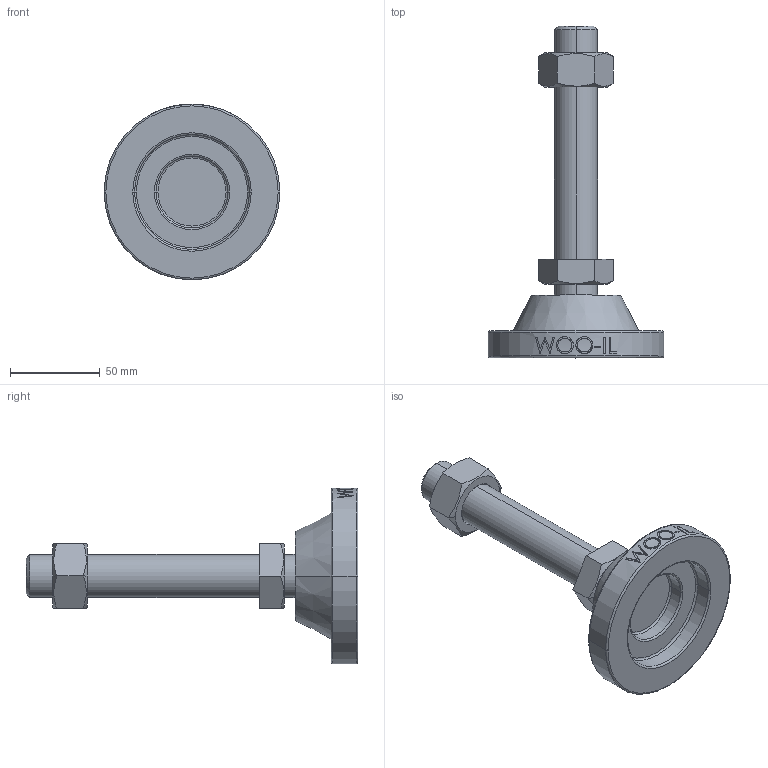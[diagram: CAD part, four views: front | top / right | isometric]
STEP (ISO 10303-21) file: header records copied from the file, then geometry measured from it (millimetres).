
FILE_DESCRIPTION (( 'STEP AP214' ), '1' );
FILE_NAME ('MFN98-M24-130.step', '2021-01-21T06:14:41', ( '' ), ( '' ), 'SwSTEP 2.0', 'SolidWorks 2019', '' );
FILE_SCHEMA (( 'AUTOMOTIVE_DESIGN' ));
Length unit declared in the file: millimetre
Products named in the file (2): MFN98-M24-130
Bounding box: 98 x 185 x 98 mm (x, y, z)
Volume: 216437.9 mm3; surface area: 42707 mm2
Topology: 2 solids, 2 shells, 111 faces, 255 edges, 162 vertices
Faces by surface type: plane 49, cylinder 20, bspline 16, cone 14, torus 12
Entity records: 4759 total; most frequent: CARTESIAN_POINT 2298, ORIENTED_EDGE 510, DIRECTION 471, EDGE_CURVE 255, AXIS2_PLACEMENT_3D 185, VERTEX_POINT 162, EDGE_LOOP 127, FACE_OUTER_BOUND 111
